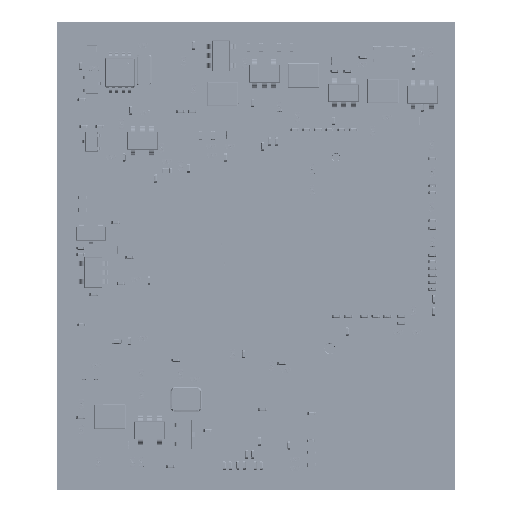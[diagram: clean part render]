
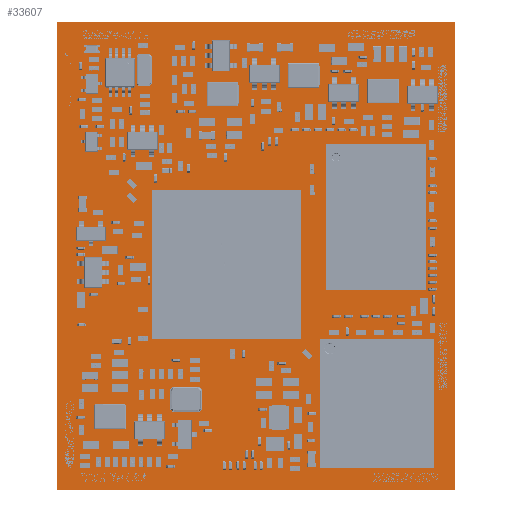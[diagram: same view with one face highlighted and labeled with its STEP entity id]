
A CAD part, top view. The second image highlights one B-rep face of the part: STEP entity #33607.
In plain terms, the highlighted planar face has unit normal (0, 0, 1).
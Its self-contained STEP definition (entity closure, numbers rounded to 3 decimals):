
#25106=FACE_OUTER_BOUND($,#27352,.F.);
#27352=EDGE_LOOP($,(#35903,#35904,#35905,#35906));
#29660=AXIS2_PLACEMENT_3D($,#67451,#59456,$);
#32841=PLANE($,#29660);
#33607=ADVANCED_FACE($,(#25106),#32841,.T.);
#35903=ORIENTED_EDGE($,*,*,#44899,.T.);
#35904=ORIENTED_EDGE($,*,*,#44900,.T.);
#35905=ORIENTED_EDGE($,*,*,#44901,.T.);
#35906=ORIENTED_EDGE($,*,*,#44902,.T.);
#44899=EDGE_CURVE($,#53830,#53831,#51615,.T.);
#44900=EDGE_CURVE($,#53831,#53832,#51616,.T.);
#44901=EDGE_CURVE($,#53832,#53833,#51617,.T.);
#44902=EDGE_CURVE($,#53833,#53830,#51618,.T.);
#49409=VECTOR($,#59488,39.98);
#49410=VECTOR($,#59489,46.965);
#49411=VECTOR($,#59490,39.98);
#49412=VECTOR($,#59491,46.965);
#51615=LINE($,#67450,#49409);
#51616=LINE($,#67451,#49410);
#51617=LINE($,#67452,#49411);
#51618=LINE($,#67453,#49412);
#53830=VERTEX_POINT($,#67450);
#53831=VERTEX_POINT($,#67451);
#53832=VERTEX_POINT($,#67452);
#53833=VERTEX_POINT($,#67453);
#59456=DIRECTION($,(0.,0.,1.));
#59488=DIRECTION($,(0.,1.,0.));
#59489=DIRECTION($,(1.,0.,0.));
#59490=DIRECTION($,(0.,-1.,0.));
#59491=DIRECTION($,(-1.,0.,0.));
#67450=CARTESIAN_POINT('',(0.025,0.,0.001));
#67451=CARTESIAN_POINT('',(0.025,39.98,0.001));
#67452=CARTESIAN_POINT('',(46.99,39.98,0.001));
#67453=CARTESIAN_POINT('',(46.99,0.,0.001));
